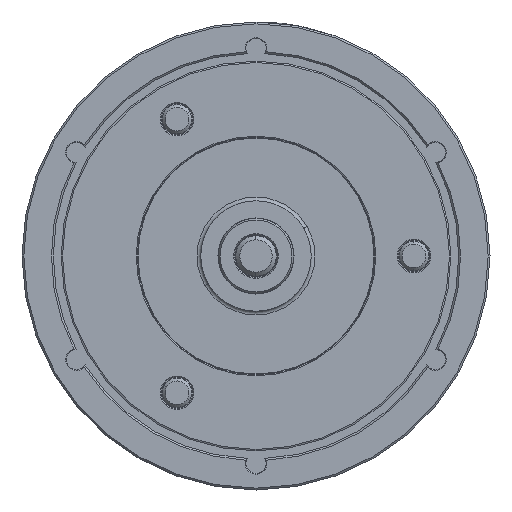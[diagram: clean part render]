
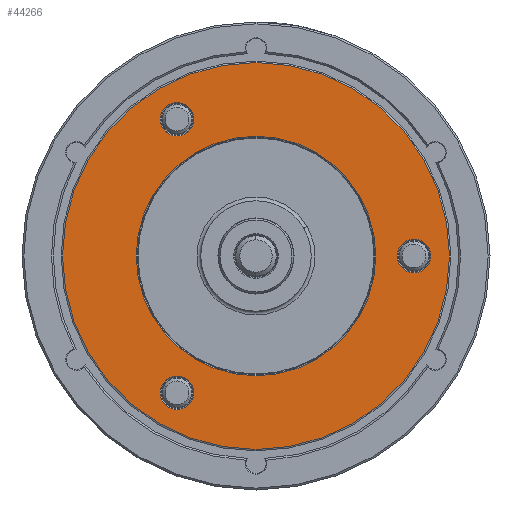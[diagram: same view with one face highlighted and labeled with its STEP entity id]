
A CAD part, left-side view. The second image highlights one B-rep face of the part: STEP entity #44266.
In plain terms, the highlighted planar face has unit normal (-1, 0, 0).
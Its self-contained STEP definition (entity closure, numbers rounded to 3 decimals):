
#242 = ORIENTED_EDGE ( 'NONE', *, *, #14700, .F. ) ;
#339 = ORIENTED_EDGE ( 'NONE', *, *, #3138, .F. ) ;
#519 = DIRECTION ( 'NONE',  ( 0., 0., -1. ) ) ;
#1476 = EDGE_CURVE ( 'NONE', #35920, #4809, #22623, .T. ) ;
#3129 = CARTESIAN_POINT ( 'NONE',  ( -100., 42.863, 83.34 ) ) ;
#3138 = EDGE_CURVE ( 'NONE', #16811, #34973, #33770, .T. ) ;
#3245 = AXIS2_PLACEMENT_3D ( 'NONE', #39907, #17104, #43752 ) ;
#3711 = EDGE_CURVE ( 'NONE', #4809, #35920, #13480, .T. ) ;
#3926 = ORIENTED_EDGE ( 'NONE', *, *, #42000, .T. ) ;
#4809 = VERTEX_POINT ( 'NONE', #20094 ) ;
#5860 = AXIS2_PLACEMENT_3D ( 'NONE', #43015, #20215, #46836 ) ;
#6020 = ORIENTED_EDGE ( 'NONE', *, *, #3711, .T. ) ;
#6673 = CARTESIAN_POINT ( 'NONE',  ( -100., 42.863, 74.24 ) ) ;
#6951 = EDGE_LOOP ( 'NONE', ( #32896, #23158 ) ) ;
#6979 = FACE_BOUND ( 'NONE', #48691, .T. ) ;
#7726 = AXIS2_PLACEMENT_3D ( 'NONE', #6673, #33305, #10486 ) ;
#8997 = DIRECTION ( 'NONE',  ( -1., 0., 0. ) ) ;
#9075 = CARTESIAN_POINT ( 'NONE',  ( -100., 42.863, 74.24 ) ) ;
#9430 = CARTESIAN_POINT ( 'NONE',  ( -100., 0., 0. ) ) ;
#9789 = AXIS2_PLACEMENT_3D ( 'NONE', #9075, #35702, #12924 ) ;
#10486 = DIRECTION ( 'NONE',  ( 0., 0., -1. ) ) ;
#12047 = AXIS2_PLACEMENT_3D ( 'NONE', #31809, #8997, #35609 ) ;
#12395 = VERTEX_POINT ( 'NONE', #12545 ) ;
#12545 = CARTESIAN_POINT ( 'NONE',  ( -100., -90.933, 52.5 ) ) ;
#12723 = DIRECTION ( 'NONE',  ( 1., 0., 0. ) ) ;
#12877 = AXIS2_PLACEMENT_3D ( 'NONE', #9430, #36053, #13277 ) ;
#12924 = DIRECTION ( 'NONE',  ( 0., 0., -1. ) ) ;
#13277 = DIRECTION ( 'NONE',  ( 0., 0.866, -0.5 ) ) ;
#13480 = CIRCLE ( 'NONE', #5860, 9.1 ) ;
#13935 = ORIENTED_EDGE ( 'NONE', *, *, #45995, .T. ) ;
#14700 = EDGE_CURVE ( 'NONE', #34973, #16811, #15649, .T. ) ;
#15139 = EDGE_CURVE ( 'NONE', #17312, #12395, #26223, .T. ) ;
#15649 = CIRCLE ( 'NONE', #34361, 65. ) ;
#16615 = AXIS2_PLACEMENT_3D ( 'NONE', #40354, #21412, #48001 ) ;
#16750 = EDGE_LOOP ( 'NONE', ( #27298, #30671 ) ) ;
#16811 = VERTEX_POINT ( 'NONE', #31467 ) ;
#17093 = FACE_BOUND ( 'NONE', #22508, .T. ) ;
#17104 = DIRECTION ( 'NONE',  ( 1., 0., 0. ) ) ;
#17193 = VERTEX_POINT ( 'NONE', #42915 ) ;
#17312 = VERTEX_POINT ( 'NONE', #39735 ) ;
#18565 = VERTEX_POINT ( 'NONE', #35577 ) ;
#19691 = DIRECTION ( 'NONE',  ( -1., 0., 0. ) ) ;
#20094 = CARTESIAN_POINT ( 'NONE',  ( -100., 42.862, -65.14 ) ) ;
#20215 = DIRECTION ( 'NONE',  ( 1., 0., 0. ) ) ;
#20417 = DIRECTION ( 'NONE',  ( -1., 0., 0. ) ) ;
#21412 = DIRECTION ( 'NONE',  ( 1., 0., 0. ) ) ;
#22508 = EDGE_LOOP ( 'NONE', ( #6020, #46625 ) ) ;
#22623 = CIRCLE ( 'NONE', #41544, 9.1 ) ;
#23158 = ORIENTED_EDGE ( 'NONE', *, *, #15139, .T. ) ;
#23343 = DIRECTION ( 'NONE',  ( 1., 0., 0. ) ) ;
#23376 = AXIS2_PLACEMENT_3D ( 'NONE', #46113, #23343, #519 ) ;
#26223 = CIRCLE ( 'NONE', #12047, 105. ) ;
#27241 = FACE_OUTER_BOUND ( 'NONE', #6951, .T. ) ;
#27298 = ORIENTED_EDGE ( 'NONE', *, *, #40219, .T. ) ;
#29639 = FACE_BOUND ( 'NONE', #38969, .T. ) ;
#30103 = CARTESIAN_POINT ( 'NONE',  ( -100., 42.863, 65.14 ) ) ;
#30470 = CIRCLE ( 'NONE', #3245, 9.1 ) ;
#30472 = VERTEX_POINT ( 'NONE', #3129 ) ;
#30671 = ORIENTED_EDGE ( 'NONE', *, *, #36661, .T. ) ;
#31467 = CARTESIAN_POINT ( 'NONE',  ( -100., 56.292, -32.5 ) ) ;
#31809 = CARTESIAN_POINT ( 'NONE',  ( -100., 0., 0. ) ) ;
#32896 = ORIENTED_EDGE ( 'NONE', *, *, #49153, .T. ) ;
#33305 = DIRECTION ( 'NONE',  ( 1., 0., 0. ) ) ;
#33326 = CARTESIAN_POINT ( 'NONE',  ( -100., -56.292, 32.5 ) ) ;
#33770 = CIRCLE ( 'NONE', #12877, 65. ) ;
#34361 = AXIS2_PLACEMENT_3D ( 'NONE', #43194, #20417, #47028 ) ;
#34973 = VERTEX_POINT ( 'NONE', #33326 ) ;
#35496 = CARTESIAN_POINT ( 'NONE',  ( -100., 42.862, -74.24 ) ) ;
#35577 = CARTESIAN_POINT ( 'NONE',  ( -100., -85.725, 9.1 ) ) ;
#35609 = DIRECTION ( 'NONE',  ( 0., 0.866, -0.5 ) ) ;
#35702 = DIRECTION ( 'NONE',  ( 1., 0., 0. ) ) ;
#35920 = VERTEX_POINT ( 'NONE', #47100 ) ;
#36053 = DIRECTION ( 'NONE',  ( -1., 0., 0. ) ) ;
#36516 = PLANE ( 'NONE',  #16615 ) ;
#36537 = CIRCLE ( 'NONE', #7726, 9.1 ) ;
#36661 = EDGE_CURVE ( 'NONE', #43900, #30472, #36813, .T. ) ;
#36813 = CIRCLE ( 'NONE', #9789, 9.1 ) ;
#38969 = EDGE_LOOP ( 'NONE', ( #339, #242 ) ) ;
#39360 = DIRECTION ( 'NONE',  ( 0., 0., -1. ) ) ;
#39735 = CARTESIAN_POINT ( 'NONE',  ( -100., 90.933, -52.5 ) ) ;
#39815 = CIRCLE ( 'NONE', #43225, 105. ) ;
#39907 = CARTESIAN_POINT ( 'NONE',  ( -100., -85.725, 0. ) ) ;
#40219 = EDGE_CURVE ( 'NONE', #30472, #43900, #36537, .T. ) ;
#40354 = CARTESIAN_POINT ( 'NONE',  ( -100., -105., 0. ) ) ;
#41544 = AXIS2_PLACEMENT_3D ( 'NONE', #35496, #12723, #39360 ) ;
#42000 = EDGE_CURVE ( 'NONE', #18565, #17193, #44102, .T. ) ;
#42493 = CARTESIAN_POINT ( 'NONE',  ( -100., 0., 0. ) ) ;
#42915 = CARTESIAN_POINT ( 'NONE',  ( -100., -85.725, -9.1 ) ) ;
#43015 = CARTESIAN_POINT ( 'NONE',  ( -100., 42.862, -74.24 ) ) ;
#43194 = CARTESIAN_POINT ( 'NONE',  ( -100., 0., 0. ) ) ;
#43225 = AXIS2_PLACEMENT_3D ( 'NONE', #42493, #19691, #46290 ) ;
#43752 = DIRECTION ( 'NONE',  ( 0., 0., -1. ) ) ;
#43900 = VERTEX_POINT ( 'NONE', #30103 ) ;
#44102 = CIRCLE ( 'NONE', #23376, 9.1 ) ;
#44266 = ADVANCED_FACE ( 'NONE', ( #48668, #27241, #29639, #6979, #17093 ), #36516, .F. ) ;
#45995 = EDGE_CURVE ( 'NONE', #17193, #18565, #30470, .T. ) ;
#46113 = CARTESIAN_POINT ( 'NONE',  ( -100., -85.725, 0. ) ) ;
#46290 = DIRECTION ( 'NONE',  ( 0., 0.866, -0.5 ) ) ;
#46625 = ORIENTED_EDGE ( 'NONE', *, *, #1476, .T. ) ;
#46836 = DIRECTION ( 'NONE',  ( 0., 0., -1. ) ) ;
#47028 = DIRECTION ( 'NONE',  ( 0., 0.866, -0.5 ) ) ;
#47100 = CARTESIAN_POINT ( 'NONE',  ( -100., 42.862, -83.34 ) ) ;
#48001 = DIRECTION ( 'NONE',  ( 0., 0., -1. ) ) ;
#48668 = FACE_BOUND ( 'NONE', #16750, .T. ) ;
#48691 = EDGE_LOOP ( 'NONE', ( #3926, #13935 ) ) ;
#49153 = EDGE_CURVE ( 'NONE', #12395, #17312, #39815, .T. ) ;
